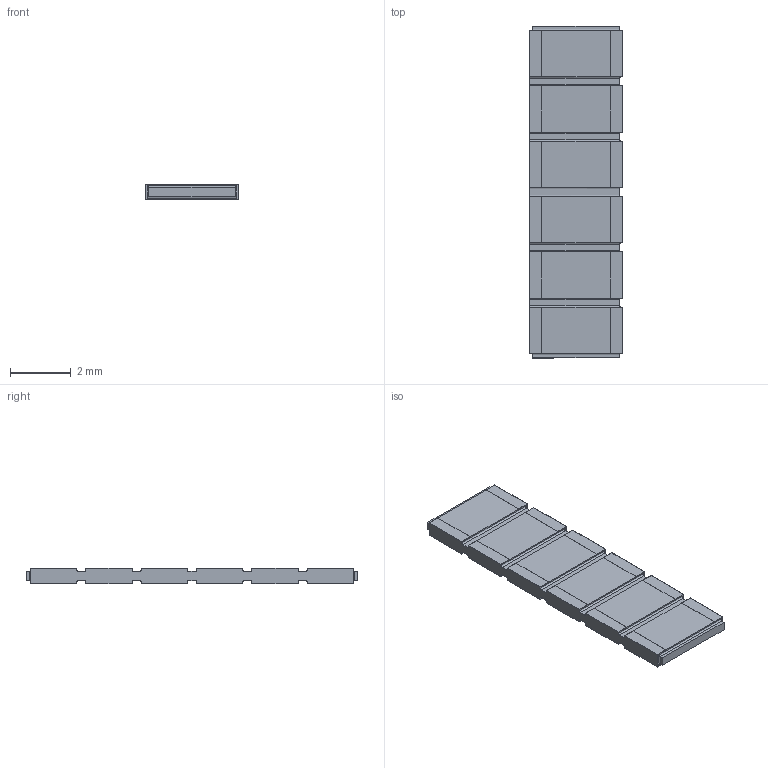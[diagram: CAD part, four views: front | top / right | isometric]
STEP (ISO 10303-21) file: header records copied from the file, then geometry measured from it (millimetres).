
FILE_DESCRIPTION(/* description */ (''),/* implementation_level */ '2;1');
FILE_NAME(/* name */ 'S:\DOCUMENT\AUTOCAD\3D_Modèles\10_3D-pour-VISHAY-COM\PRA\PRA182\PRA182-C2_à_C8\10_IGES\PRA182C6_B-or-N-or-G.stp',/* time_stamp */ '2017-12-19T09:07:16+01:00',/* author */ ('dparmentier'),/* organization */ ('unknown'),/* preprocessor_version */ 'ST-DEVELOPER v17',/* originating_system */ 'Autodesk Inventor 2018',/* authorisation */ '');
FILE_SCHEMA (('AUTOMOTIVE_DESIGN { 1 0 10303 214 3 1 1 }'));
Length unit declared in the file: millimetre
Products named in the file (1): PRA182C6_B-or-N-or-G
Bounding box: 3.06 x 10.95 x 0.5 mm (x, y, z)
Volume: 15.4 mm3; surface area: 132.4 mm2
Topology: 8 solids, 8 shells, 244 faces, 650 edges, 424 vertices
Faces by surface type: plane 186, cylinder 58
Entity records: 7524 total; most frequent: CARTESIAN_POINT 1319, ORIENTED_EDGE 1300, DIRECTION 1228, EDGE_CURVE 650, LINE 562, VECTOR 562, VERTEX_POINT 424, AXIS2_PLACEMENT_3D 333
